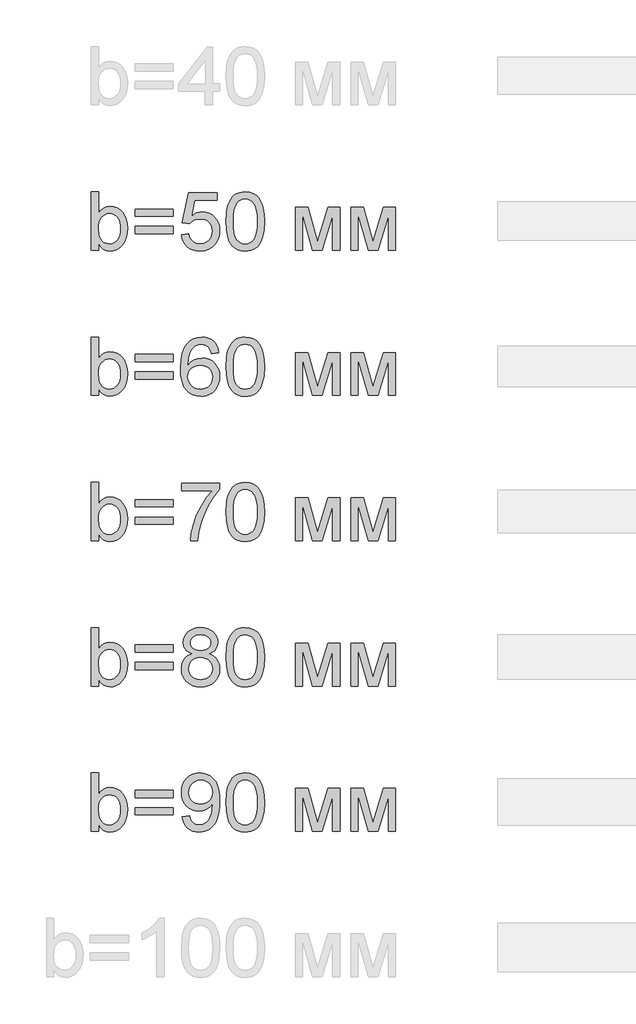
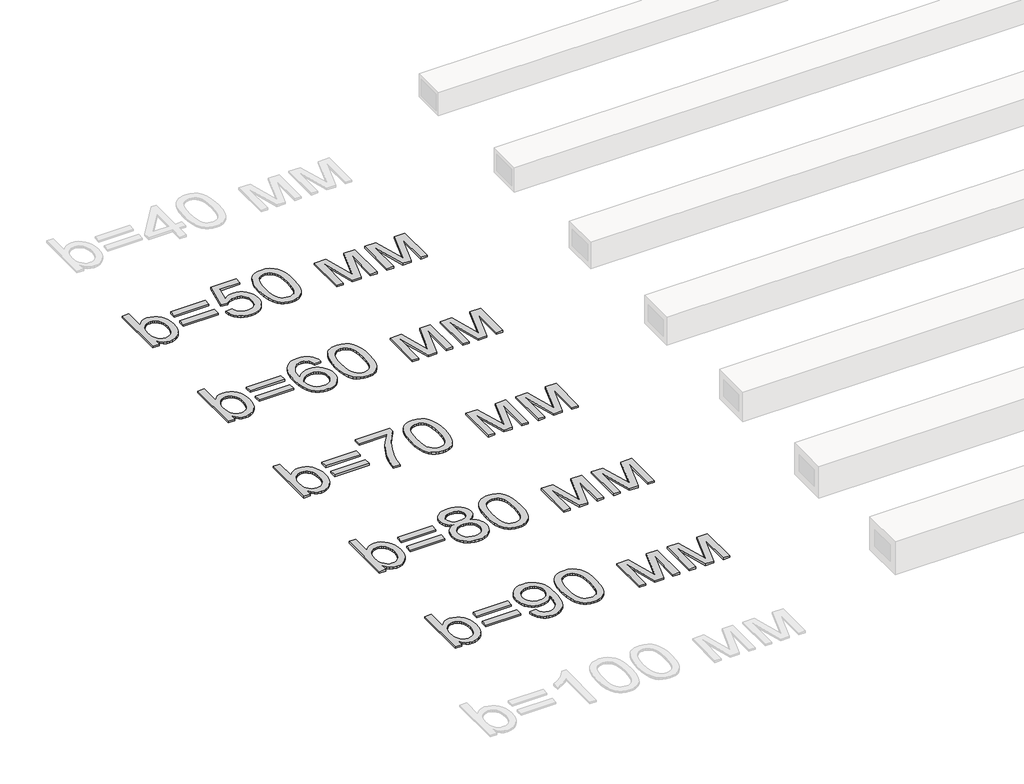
# One storey, part 79 of 86: 5 proxies.
"""IFC4 building model written with IfcOpenShell, lengths in millimetres."""

from ifc_helpers import new_model, si_unit, origin, origin_with_axes, place, context, project, spatial, polyline, outline, extrude, element, save

model = new_model("IFC4")

# Units and contexts
model_context = context("Model", 3, world=origin())
ifc_project = project(units=[si_unit("LENGTHUNIT", "METRE", prefix="MILLI")], contexts=[model_context])

# Site, building, storey
site = spatial("IfcSite", under=ifc_project)
building = spatial("IfcBuilding", under=site)
storey = spatial("IfcBuildingStorey", under=building, Name="Уровень 1", Elevation=0.0)

# Proxies
placement = place(None, origin())
element("IfcBuildingElementProxy", 1, Name="Текст модели 1", ObjectType="Текст модели 1", at=placement, inside=storey, context=model_context, shape_type="SweptSolid", body=[
    extrude(outline(polyline([(89771.0068445, 83169.2937088), (89695.6646119, 83169.2937088), (89695.6646119, 83772.0315697), (89771.0068445, 83772.0315697), (89771.0068445, 83548.5064694), (89795.7836969, 83580.3742473), (89823.7611226, 83603.1369457), (89854.9391217, 83616.7945648), (89889.3176942, 83621.3471045), (89928.1292447, 83617.2452202), (89964.8070796, 83604.9395675), (89997.2542716, 83585.2026984), (90023.3738932, 83558.8071653), (90043.8465263, 83526.0104854), (90059.3527524, 83487.0701762), (90069.1200193, 83443.6049185), (90072.375775, 83397.233393), (90069.0050562, 83343.7249568), (90058.8928999, 83296.6544555), (90042.039306, 83256.0218892), (90018.4442745, 83221.8272577), (89990.1219594, 83194.7235517), (89959.0865146, 83175.3637617), (89925.33794, 83163.7478877), (89888.8762358, 83159.8759297), (89853.3664262, 83164.8699278), (89821.8849245, 83179.8519221), (89794.4317306, 83204.8219125), (89771.0068445, 83239.7798991), (89771.0068445, 83169.2937088)]), holes=[polyline([(89771.0068445, 83393.7017259), (89776.1571925, 83330.8674811), (89782.5951274, 83307.065516), (89791.6082363, 83288.3403224), (89809.8643803, 83265.0993774), (89831.0819744, 83248.4987024), (89855.2610185, 83238.5382973), (89882.4015127, 83235.2181623), (89904.9342849, 83237.6645776), (89925.8851645, 83245.0038234), (89945.2541516, 83257.2358997), (89963.041246, 83274.3608066), (89977.9128757, 83296.3325588), (89988.5354683, 83323.105171), (89994.9090239, 83354.6786432), (89997.0335424, 83391.0529755), (89994.9963958, 83428.1170865), (89988.8849562, 83459.9940614), (89978.6992234, 83486.6839001), (89964.4391976, 83508.1866028), (89947.2912981, 83524.7320955), (89928.4419444, 83536.5503046), (89907.8911364, 83543.64123), (89885.6388742, 83546.0048719), (89863.106102, 83543.5584566), (89842.1552224, 83536.2192108), (89822.7862354, 83523.9871344), (89804.9991409, 83506.8622276), (89790.1275112, 83485.1112046), (89779.5049186, 83459.00078), (89773.1313631, 83428.5309538), (89771.0068445, 83393.7017259)])]), origin_with_axes(), (0.0, 0.0, 1.0), 20.0),
    extrude(outline(polyline([(90543.2647288, 83517.7515346), (90147.7180076, 83517.7515346), (90147.7180076, 83593.0937672), (90543.2647288, 83593.0937672), (90543.2647288, 83517.7515346)])), origin_with_axes(), (0.0, 0.0, 1.0), 20.0),
    extrude(outline(polyline([(90543.2647288, 83338.8137322), (90147.7180076, 83338.8137322), (90147.7180076, 83414.1559648), (90543.2647288, 83414.1559648), (90543.2647288, 83338.8137322)])), origin_with_axes(), (0.0, 0.0, 1.0), 20.0),
    extrude(outline(polyline([(90628.0247405, 83329.3959531), (90703.3669731, 83338.8137322), (90708.9955676, 83314.5933013), (90717.1993361, 83293.5826409), (90727.9782786, 83275.7817508), (90741.332395, 83261.1906312), (90757.2340943, 83249.8276761), (90775.6557852, 83241.7112795), (90796.5974677, 83236.8414416), (90820.059142, 83235.2181623), (90848.7539376, 83237.4760381), (90874.0642189, 83244.2496653), (90895.9899858, 83255.539044), (90914.5312383, 83271.3441743), (90929.2741093, 83290.8833067), (90939.8047314, 83313.3746922), (90946.1231047, 83338.8183307), (90948.2292291, 83367.2142222), (90946.2564619, 83394.0512138), (90940.3381603, 83417.9083611), (90930.4743243, 83438.7856644), (90916.6649539, 83456.6831234), (90898.8640639, 83471.0397183), (90877.0256689, 83481.2944289), (90851.1497691, 83487.4472553), (90821.2363644, 83489.4981974), (90784.6872881, 83486.2240476), (90755.0911816, 83476.4015984), (90731.4547634, 83461.3552248), (90712.7847522, 83442.409302), (90637.4425196, 83451.8270811), (90703.3669731, 83762.6137906), (90995.3181245, 83762.6137906), (90995.3181245, 83687.271558), (90764.2882315, 83687.271558), (90732.0617687, 83521.2832018), (90758.6504399, 83540.3394891), (90785.8829046, 83553.951123), (90813.7591628, 83562.1181032), (90842.2792145, 83564.84043), (90878.970845, 83561.4651127), (90912.6734343, 83551.3391608), (90943.3869823, 83534.4625743), (90971.1114892, 83510.8353531), (90994.0627272, 83481.9014342), (91010.4564686, 83449.1047543), (91020.2927134, 83412.4453135), (91023.5714617, 83371.9231117), (91020.6192087, 83332.8908321), (91011.7624497, 83296.5808791), (90997.0011846, 83262.993253), (90976.3354135, 83232.1279536), (90945.0286557, 83200.5176931), (90908.4979736, 83177.9389357), (90866.7433672, 83164.3916812), (90819.7648364, 83159.8759297), (90780.884308, 83162.777599), (90745.7653731, 83171.4826067), (90714.4080315, 83185.9909529), (90686.8122833, 83206.3026375), (90663.8518483, 83231.4059852), (90646.4004462, 83260.2893203), (90634.4580769, 83292.952643), (90628.0247405, 83329.3959531)])), origin_with_axes(), (0.0, 0.0, 1.0), 20.0),
    extrude(outline(polyline([(91089.4959153, 83465.8065969), (91095.0325393, 83562.2836501), (91101.9533193, 83603.1967265), (91111.6424114, 83639.2261694), (91124.0584287, 83670.6662845), (91139.1599846, 83697.8113772), (91156.9470791, 83720.6614476), (91177.4197121, 83739.2164957), (91200.6468616, 83753.5730906), (91226.6975054, 83763.8278012), (91255.5716435, 83769.9806276), (91287.2692759, 83772.0315697), (91333.6959837, 83767.1755274), (91375.2666491, 83752.6074004), (91410.0314977, 83728.8974058), (91436.0407547, 83696.6157607), (91455.6856533, 83656.0383766), (91471.3574262, 83607.4411651), (91481.6213339, 83545.7289604), (91485.0426365, 83465.8065969), (91479.5611947, 83369.8813667), (91472.7093926, 83329.106246), (91463.1168696, 83293.1227884), (91450.7974212, 83261.6688778), (91435.7648432, 83234.4823983), (91418.0191355, 83211.56335), (91397.560298, 83192.9117329), (91374.3055574, 83178.458569), (91348.1721402, 83168.1348805), (91319.1600463, 83161.9406674), (91287.2692759, 83159.8759297), (91245.7721868, 83163.4627792), (91208.9839873, 83174.2233275), (91176.9046773, 83192.1575748), (91149.5342569, 83217.265521), (91123.2674824, 83262.6529621), (91104.5055007, 83319.2056218), (91093.2483116, 83386.9235001), (91089.4959153, 83465.8065969)]), holes=[polyline([(91164.8381479, 83465.9537497), (91167.0454398, 83400.456959), (91173.6673158, 83347.440565), (91184.7037756, 83306.9045676), (91200.1548194, 83278.848967), (91218.8432248, 83259.7604899), (91239.5917693, 83246.1258635), (91262.400453, 83237.9450876), (91287.2692759, 83235.2181623), (91312.1380987, 83237.9542847), (91334.9467824, 83246.1626517), (91355.695327, 83259.8432634), (91374.3837323, 83278.9961198), (91389.8347761, 83307.0977057), (91400.871236, 83347.624506), (91407.4931119, 83400.5765206), (91409.7004039, 83465.9537497), (91407.5666883, 83529.7168965), (91401.1655416, 83581.79979), (91390.4969637, 83622.2024301), (91375.5609547, 83650.9248169), (91357.185249, 83670.9467945), (91336.1975812, 83685.248207), (91312.5979512, 83693.8290546), (91286.3863591, 83696.6893371), (91261.6462949, 83694.1693454), (91239.2238873, 83686.6093704), (91219.1191363, 83674.0094121), (91201.3320418, 83656.3694704), (91185.3659632, 83625.0995008), (91173.9616213, 83582.9402242), (91167.1190162, 83529.8916405), (91164.8381479, 83465.9537497)])]), origin_with_axes(), (0.0, 0.0, 1.0), 20.0),
    extrude(outline(polyline([(91805.2471251, 83611.9293254), (91934.8887402, 83611.9293254), (92034.8054901, 83257.5853876), (92142.5213382, 83611.9293254), (92266.7182998, 83611.9293254), (92266.7182998, 83169.2937088), (92191.3760672, 83169.2937088), (92191.3760672, 83525.6977857), (92083.0716078, 83169.2937088), (91984.1849275, 83169.2937088), (91880.5893577, 83542.7675103), (91880.5893577, 83169.2937088), (91805.2471251, 83169.2937088), (91805.2471251, 83611.9293254)])), origin_with_axes(), (0.0, 0.0, 1.0), 20.0),
    extrude(outline(polyline([(92379.7316487, 83611.9293254), (92509.3732638, 83611.9293254), (92609.2900137, 83257.5853876), (92717.0058619, 83611.9293254), (92841.2028235, 83611.9293254), (92841.2028235, 83169.2937088), (92765.8605909, 83169.2937088), (92765.8605909, 83525.6977857), (92657.5561315, 83169.2937088), (92558.6694512, 83169.2937088), (92455.0738813, 83542.7675103), (92455.0738813, 83169.2937088), (92379.7316487, 83169.2937088), (92379.7316487, 83611.9293254)])), origin_with_axes(), (0.0, 0.0, 1.0), 20.0),
])
element("IfcBuildingElementProxy", 2, Name="Текст модели 1", ObjectType="Текст модели 1", at=placement, inside=storey, context=model_context, shape_type="SweptSolid", body=[
    extrude(outline(polyline([(89771.0068445, 81669.2937088), (89695.6646119, 81669.2937088), (89695.6646119, 82272.0315697), (89771.0068445, 82272.0315697), (89771.0068445, 82048.5064694), (89795.7836969, 82080.3742473), (89823.7611226, 82103.1369457), (89854.9391217, 82116.7945648), (89889.3176942, 82121.3471045), (89928.1292447, 82117.2452202), (89964.8070796, 82104.9395675), (89997.2542716, 82085.2026984), (90023.3738932, 82058.8071653), (90043.8465263, 82026.0104854), (90059.3527524, 81987.0701762), (90069.1200193, 81943.6049185), (90072.375775, 81897.233393), (90069.0050562, 81843.7249568), (90058.8928999, 81796.6544555), (90042.039306, 81756.0218892), (90018.4442745, 81721.8272577), (89990.1219594, 81694.7235517), (89959.0865146, 81675.3637617), (89925.33794, 81663.7478877), (89888.8762358, 81659.8759297), (89853.3664262, 81664.8699278), (89821.8849245, 81679.8519221), (89794.4317306, 81704.8219125), (89771.0068445, 81739.7798991), (89771.0068445, 81669.2937088)]), holes=[polyline([(89771.0068445, 81893.7017259), (89776.1571925, 81830.8674811), (89782.5951274, 81807.065516), (89791.6082363, 81788.3403224), (89809.8643803, 81765.0993774), (89831.0819744, 81748.4987024), (89855.2610185, 81738.5382973), (89882.4015127, 81735.2181623), (89904.9342849, 81737.6645776), (89925.8851645, 81745.0038234), (89945.2541516, 81757.2358997), (89963.041246, 81774.3608066), (89977.9128757, 81796.3325588), (89988.5354683, 81823.105171), (89994.9090239, 81854.6786432), (89997.0335424, 81891.0529755), (89994.9963958, 81928.1170865), (89988.8849562, 81959.9940614), (89978.6992234, 81986.6839001), (89964.4391976, 82008.1866028), (89947.2912981, 82024.7320955), (89928.4419444, 82036.5503046), (89907.8911364, 82043.64123), (89885.6388742, 82046.0048719), (89863.106102, 82043.5584566), (89842.1552224, 82036.2192108), (89822.7862354, 82023.9871344), (89804.9991409, 82006.8622276), (89790.1275112, 81985.1112046), (89779.5049186, 81959.00078), (89773.1313631, 81928.5309538), (89771.0068445, 81893.7017259)])]), origin_with_axes(), (0.0, 0.0, 1.0), 20.0),
    extrude(outline(polyline([(90543.2647288, 82017.7515346), (90147.7180076, 82017.7515346), (90147.7180076, 82093.0937672), (90543.2647288, 82093.0937672), (90543.2647288, 82017.7515346)])), origin_with_axes(), (0.0, 0.0, 1.0), 20.0),
    extrude(outline(polyline([(90543.2647288, 81838.8137322), (90147.7180076, 81838.8137322), (90147.7180076, 81914.1559648), (90543.2647288, 81914.1559648), (90543.2647288, 81838.8137322)])), origin_with_axes(), (0.0, 0.0, 1.0), 20.0),
    extrude(outline(polyline([(91014.1536826, 82111.9293254), (90938.81145, 82102.5115463), (90926.6713442, 82139.8515688), (90910.2638072, 82165.3457911), (90894.0678024, 82179.0585925), (90876.0875699, 82188.8534506), (90856.3231097, 82194.7303655), (90834.7744218, 82196.6893371), (90799.7520559, 82192.1276003), (90766.7898291, 82178.4423901), (90738.4813096, 82149.6188358), (90715.3599262, 82109.9427626), (90706.3238247, 82084.6370799), (90699.7433355, 82053.8223643), (90693.949194, 81975.6658344), (90724.1706999, 82010.9273236), (90760.3886824, 82035.7777524), (90800.5797903, 82050.5114263), (90842.7206729, 82055.4226509), (90878.9202612, 82052.0657277), (90912.3239464, 82041.9949581), (90942.9317284, 82025.2103421), (90970.7436072, 82001.7118796), (90993.8557936, 81972.8975224), (91010.3644981, 81940.1652218), (91020.2697208, 81903.5149781), (91023.5714617, 81862.9467911), (91022.0171603, 81835.4798016), (91017.354256, 81808.9968965), (91009.5827489, 81783.4980757), (90998.7026388, 81758.9833392), (90985.1002021, 81736.3677936), (90969.1617146, 81716.5665452), (90950.8871765, 81699.5795941), (90930.2765877, 81685.4069402), (90907.7714067, 81674.2371231), (90883.8130918, 81666.2586823), (90858.4016429, 81661.4716179), (90831.5370602, 81659.8759297), (90786.6232671, 81664.1065727), (90746.0596787, 81676.7985015), (90709.8462948, 81697.9517162), (90677.9831154, 81727.5662168), (90652.0060481, 81766.8928021), (90633.4509999, 81817.1822709), (90622.3179711, 81878.4346231), (90618.6069614, 81950.6498587), (90622.7272398, 82031.6114888), (90635.0880748, 82100.7089245), (90655.6894665, 82157.9421659), (90669.0803712, 82182.1097138), (90684.531415, 82203.311213), (90715.7921875, 82233.3763691), (90752.0377611, 82254.8514805), (90793.2681357, 82267.7365474), (90839.4833113, 82272.0315697), (90874.1837805, 82269.3736223), (90905.5917059, 82261.39978), (90933.7070873, 82248.110043), (90958.529925, 82229.5044111), (90979.3888341, 82206.2082837), (90995.6124301, 82178.8470603), (91007.2007129, 82147.4207409), (91014.1536826, 82111.9293254)]), holes=[polyline([(90693.949194, 81864.1240134), (90698.3085957, 81830.7387224), (90711.3868006, 81798.8617475), (90731.6938867, 81771.4545389), (90757.739932, 81751.4785465), (90789.1754485, 81739.2832584), (90825.6509483, 81735.2181623), (90851.8395478, 81737.3242868), (90875.3702, 81743.64266), (90896.2429047, 81754.1732821), (90914.4576619, 81768.9161531), (90929.2327226, 81787.2734647), (90939.7863373, 81808.6474086), (90946.1185062, 81833.0379849), (90948.2292291, 81860.4451935), (90946.1460973, 81886.7809458), (90939.8967019, 81910.1644451), (90929.4810429, 81930.5956914), (90914.8991203, 81948.0746847), (90896.6291808, 81962.0771932), (90875.1494708, 81972.0789849), (90850.4599904, 81978.08006), (90822.5607396, 81980.0804183), (90796.7216279, 81978.08006), (90772.9150643, 81972.0789849), (90751.1410487, 81962.0771932), (90731.3995811, 81948.0746847), (90715.0150368, 81930.8256177), (90703.3117908, 81911.0841501), (90696.2898432, 81888.850282), (90693.949194, 81864.1240134)])]), origin_with_axes(), (0.0, 0.0, 1.0), 20.0),
    extrude(outline(polyline([(91089.4959153, 81965.8065969), (91095.0325393, 82062.2836501), (91101.9533193, 82103.1967265), (91111.6424114, 82139.2261694), (91124.0584287, 82170.6662845), (91139.1599846, 82197.8113772), (91156.9470791, 82220.6614476), (91177.4197121, 82239.2164957), (91200.6468616, 82253.5730906), (91226.6975054, 82263.8278012), (91255.5716435, 82269.9806276), (91287.2692759, 82272.0315697), (91333.6959837, 82267.1755274), (91375.2666491, 82252.6074004), (91410.0314977, 82228.8974058), (91436.0407547, 82196.6157607), (91455.6856533, 82156.0383766), (91471.3574262, 82107.4411651), (91481.6213339, 82045.7289604), (91485.0426365, 81965.8065969), (91479.5611947, 81869.8813667), (91472.7093926, 81829.106246), (91463.1168696, 81793.1227884), (91450.7974212, 81761.6688778), (91435.7648432, 81734.4823983), (91418.0191355, 81711.56335), (91397.560298, 81692.9117329), (91374.3055574, 81678.458569), (91348.1721402, 81668.1348805), (91319.1600463, 81661.9406674), (91287.2692759, 81659.8759297), (91245.7721868, 81663.4627792), (91208.9839873, 81674.2233275), (91176.9046773, 81692.1575748), (91149.5342569, 81717.265521), (91123.2674824, 81762.6529621), (91104.5055007, 81819.2056218), (91093.2483116, 81886.9235001), (91089.4959153, 81965.8065969)]), holes=[polyline([(91164.8381479, 81965.9537497), (91167.0454398, 81900.456959), (91173.6673158, 81847.440565), (91184.7037756, 81806.9045676), (91200.1548194, 81778.848967), (91218.8432248, 81759.7604899), (91239.5917693, 81746.1258635), (91262.400453, 81737.9450876), (91287.2692759, 81735.2181623), (91312.1380987, 81737.9542847), (91334.9467824, 81746.1626517), (91355.695327, 81759.8432634), (91374.3837323, 81778.9961198), (91389.8347761, 81807.0977057), (91400.871236, 81847.624506), (91407.4931119, 81900.5765206), (91409.7004039, 81965.9537497), (91407.5666883, 82029.7168965), (91401.1655416, 82081.79979), (91390.4969637, 82122.2024301), (91375.5609547, 82150.9248169), (91357.185249, 82170.9467945), (91336.1975812, 82185.248207), (91312.5979512, 82193.8290546), (91286.3863591, 82196.6893371), (91261.6462949, 82194.1693454), (91239.2238873, 82186.6093704), (91219.1191363, 82174.0094121), (91201.3320418, 82156.3694704), (91185.3659632, 82125.0995008), (91173.9616213, 82082.9402242), (91167.1190162, 82029.8916405), (91164.8381479, 81965.9537497)])]), origin_with_axes(), (0.0, 0.0, 1.0), 20.0),
    extrude(outline(polyline([(91805.2471251, 82111.9293254), (91934.8887402, 82111.9293254), (92034.8054901, 81757.5853876), (92142.5213382, 82111.9293254), (92266.7182998, 82111.9293254), (92266.7182998, 81669.2937088), (92191.3760672, 81669.2937088), (92191.3760672, 82025.6977857), (92083.0716078, 81669.2937088), (91984.1849275, 81669.2937088), (91880.5893577, 82042.7675103), (91880.5893577, 81669.2937088), (91805.2471251, 81669.2937088), (91805.2471251, 82111.9293254)])), origin_with_axes(), (0.0, 0.0, 1.0), 20.0),
    extrude(outline(polyline([(92379.7316487, 82111.9293254), (92509.3732638, 82111.9293254), (92609.2900137, 81757.5853876), (92717.0058619, 82111.9293254), (92841.2028235, 82111.9293254), (92841.2028235, 81669.2937088), (92765.8605909, 81669.2937088), (92765.8605909, 82025.6977857), (92657.5561315, 81669.2937088), (92558.6694512, 81669.2937088), (92455.0738813, 82042.7675103), (92455.0738813, 81669.2937088), (92379.7316487, 81669.2937088), (92379.7316487, 82111.9293254)])), origin_with_axes(), (0.0, 0.0, 1.0), 20.0),
])
element("IfcBuildingElementProxy", 3, Name="Текст модели 1", ObjectType="Текст модели 1", at=placement, inside=storey, context=model_context, shape_type="SweptSolid", body=[
    extrude(outline(polyline([(89771.0068445, 80169.2937088), (89695.6646119, 80169.2937088), (89695.6646119, 80772.0315697), (89771.0068445, 80772.0315697), (89771.0068445, 80548.5064694), (89795.7836969, 80580.3742473), (89823.7611226, 80603.1369457), (89854.9391217, 80616.7945648), (89889.3176942, 80621.3471045), (89928.1292447, 80617.2452202), (89964.8070796, 80604.9395675), (89997.2542716, 80585.2026984), (90023.3738932, 80558.8071653), (90043.8465263, 80526.0104854), (90059.3527524, 80487.0701762), (90069.1200193, 80443.6049185), (90072.375775, 80397.233393), (90069.0050562, 80343.7249568), (90058.8928999, 80296.6544555), (90042.039306, 80256.0218892), (90018.4442745, 80221.8272577), (89990.1219594, 80194.7235517), (89959.0865146, 80175.3637617), (89925.33794, 80163.7478877), (89888.8762358, 80159.8759297), (89853.3664262, 80164.8699278), (89821.8849245, 80179.8519221), (89794.4317306, 80204.8219125), (89771.0068445, 80239.7798991), (89771.0068445, 80169.2937088)]), holes=[polyline([(89771.0068445, 80393.7017259), (89776.1571925, 80330.8674811), (89782.5951274, 80307.065516), (89791.6082363, 80288.3403224), (89809.8643803, 80265.0993774), (89831.0819744, 80248.4987024), (89855.2610185, 80238.5382973), (89882.4015127, 80235.2181623), (89904.9342849, 80237.6645776), (89925.8851645, 80245.0038234), (89945.2541516, 80257.2358997), (89963.041246, 80274.3608066), (89977.9128757, 80296.3325588), (89988.5354683, 80323.105171), (89994.9090239, 80354.6786432), (89997.0335424, 80391.0529755), (89994.9963958, 80428.1170865), (89988.8849562, 80459.9940614), (89978.6992234, 80486.6839001), (89964.4391976, 80508.1866028), (89947.2912981, 80524.7320955), (89928.4419444, 80536.5503046), (89907.8911364, 80543.64123), (89885.6388742, 80546.0048719), (89863.106102, 80543.5584566), (89842.1552224, 80536.2192108), (89822.7862354, 80523.9871344), (89804.9991409, 80506.8622276), (89790.1275112, 80485.1112046), (89779.5049186, 80459.00078), (89773.1313631, 80428.5309538), (89771.0068445, 80393.7017259)])]), origin_with_axes(), (0.0, 0.0, 1.0), 20.0),
    extrude(outline(polyline([(90543.2647288, 80517.7515346), (90147.7180076, 80517.7515346), (90147.7180076, 80593.0937672), (90543.2647288, 80593.0937672), (90543.2647288, 80517.7515346)])), origin_with_axes(), (0.0, 0.0, 1.0), 20.0),
    extrude(outline(polyline([(90543.2647288, 80338.8137322), (90147.7180076, 80338.8137322), (90147.7180076, 80414.1559648), (90543.2647288, 80414.1559648), (90543.2647288, 80338.8137322)])), origin_with_axes(), (0.0, 0.0, 1.0), 20.0),
    extrude(outline(polyline([(90628.0247405, 80687.271558), (90628.0247405, 80762.6137906), (91023.5714617, 80762.6137906), (91023.5714617, 80701.6925322), (90967.193546, 80630.3418193), (90911.3674532, 80539.6037251), (90862.1264481, 80437.7555948), (90842.2378278, 80385.7692703), (90825.5037955, 80333.0747731), (90807.5511542, 80254.7526963), (90797.5447639, 80169.2937088), (90722.2025313, 80169.2937088), (90730.3511175, 80246.953598), (90752.1481257, 80339.2551906), (90768.0176352, 80388.6203558), (90787.0049447, 80437.0934072), (90809.1100541, 80484.6743447), (90834.3329634, 80531.3631685), (90889.5888391, 80616.5830326), (90948.2292291, 80687.271558), (90628.0247405, 80687.271558)])), origin_with_axes(), (0.0, 0.0, 1.0), 20.0),
    extrude(outline(polyline([(91089.4959153, 80465.8065969), (91095.0325393, 80562.2836501), (91101.9533193, 80603.1967265), (91111.6424114, 80639.2261694), (91124.0584287, 80670.6662845), (91139.1599846, 80697.8113772), (91156.9470791, 80720.6614476), (91177.4197121, 80739.2164957), (91200.6468616, 80753.5730906), (91226.6975054, 80763.8278012), (91255.5716435, 80769.9806276), (91287.2692759, 80772.0315697), (91333.6959837, 80767.1755274), (91375.2666491, 80752.6074004), (91410.0314977, 80728.8974058), (91436.0407547, 80696.6157607), (91455.6856533, 80656.0383766), (91471.3574262, 80607.4411651), (91481.6213339, 80545.7289604), (91485.0426365, 80465.8065969), (91479.5611947, 80369.8813667), (91472.7093926, 80329.106246), (91463.1168696, 80293.1227884), (91450.7974212, 80261.6688778), (91435.7648432, 80234.4823983), (91418.0191355, 80211.56335), (91397.560298, 80192.9117329), (91374.3055574, 80178.458569), (91348.1721402, 80168.1348805), (91319.1600463, 80161.9406674), (91287.2692759, 80159.8759297), (91245.7721868, 80163.4627792), (91208.9839873, 80174.2233275), (91176.9046773, 80192.1575748), (91149.5342569, 80217.265521), (91123.2674824, 80262.6529621), (91104.5055007, 80319.2056218), (91093.2483116, 80386.9235001), (91089.4959153, 80465.8065969)]), holes=[polyline([(91164.8381479, 80465.9537497), (91167.0454398, 80400.456959), (91173.6673158, 80347.440565), (91184.7037756, 80306.9045676), (91200.1548194, 80278.848967), (91218.8432248, 80259.7604899), (91239.5917693, 80246.1258635), (91262.400453, 80237.9450876), (91287.2692759, 80235.2181623), (91312.1380987, 80237.9542847), (91334.9467824, 80246.1626517), (91355.695327, 80259.8432634), (91374.3837323, 80278.9961198), (91389.8347761, 80307.0977057), (91400.871236, 80347.624506), (91407.4931119, 80400.5765206), (91409.7004039, 80465.9537497), (91407.5666883, 80529.7168965), (91401.1655416, 80581.79979), (91390.4969637, 80622.2024301), (91375.5609547, 80650.9248169), (91357.185249, 80670.9467945), (91336.1975812, 80685.248207), (91312.5979512, 80693.8290546), (91286.3863591, 80696.6893371), (91261.6462949, 80694.1693454), (91239.2238873, 80686.6093704), (91219.1191363, 80674.0094121), (91201.3320418, 80656.3694704), (91185.3659632, 80625.0995008), (91173.9616213, 80582.9402242), (91167.1190162, 80529.8916405), (91164.8381479, 80465.9537497)])]), origin_with_axes(), (0.0, 0.0, 1.0), 20.0),
    extrude(outline(polyline([(91805.2471251, 80611.9293254), (91934.8887402, 80611.9293254), (92034.8054901, 80257.5853876), (92142.5213382, 80611.9293254), (92266.7182998, 80611.9293254), (92266.7182998, 80169.2937088), (92191.3760672, 80169.2937088), (92191.3760672, 80525.6977857), (92083.0716078, 80169.2937088), (91984.1849275, 80169.2937088), (91880.5893577, 80542.7675103), (91880.5893577, 80169.2937088), (91805.2471251, 80169.2937088), (91805.2471251, 80611.9293254)])), origin_with_axes(), (0.0, 0.0, 1.0), 20.0),
    extrude(outline(polyline([(92379.7316487, 80611.9293254), (92509.3732638, 80611.9293254), (92609.2900137, 80257.5853876), (92717.0058619, 80611.9293254), (92841.2028235, 80611.9293254), (92841.2028235, 80169.2937088), (92765.8605909, 80169.2937088), (92765.8605909, 80525.6977857), (92657.5561315, 80169.2937088), (92558.6694512, 80169.2937088), (92455.0738813, 80542.7675103), (92455.0738813, 80169.2937088), (92379.7316487, 80169.2937088), (92379.7316487, 80611.9293254)])), origin_with_axes(), (0.0, 0.0, 1.0), 20.0),
])
element("IfcBuildingElementProxy", 4, Name="Текст модели 1", ObjectType="Текст модели 1", at=placement, inside=storey, context=model_context, shape_type="SweptSolid", body=[
    extrude(outline(polyline([(89771.0068445, 78669.2937088), (89695.6646119, 78669.2937088), (89695.6646119, 79272.0315697), (89771.0068445, 79272.0315697), (89771.0068445, 79048.5064694), (89795.7836969, 79080.3742473), (89823.7611226, 79103.1369457), (89854.9391217, 79116.7945648), (89889.3176942, 79121.3471045), (89928.1292447, 79117.2452202), (89964.8070796, 79104.9395675), (89997.2542716, 79085.2026984), (90023.3738932, 79058.8071653), (90043.8465263, 79026.0104854), (90059.3527524, 78987.0701762), (90069.1200193, 78943.6049185), (90072.375775, 78897.233393), (90069.0050562, 78843.7249568), (90058.8928999, 78796.6544555), (90042.039306, 78756.0218892), (90018.4442745, 78721.8272577), (89990.1219594, 78694.7235517), (89959.0865146, 78675.3637617), (89925.33794, 78663.7478877), (89888.8762358, 78659.8759297), (89853.3664262, 78664.8699278), (89821.8849245, 78679.8519221), (89794.4317306, 78704.8219125), (89771.0068445, 78739.7798991), (89771.0068445, 78669.2937088)]), holes=[polyline([(89771.0068445, 78893.7017259), (89776.1571925, 78830.8674811), (89782.5951274, 78807.065516), (89791.6082363, 78788.3403224), (89809.8643803, 78765.0993774), (89831.0819744, 78748.4987024), (89855.2610185, 78738.5382973), (89882.4015127, 78735.2181623), (89904.9342849, 78737.6645776), (89925.8851645, 78745.0038234), (89945.2541516, 78757.2358997), (89963.041246, 78774.3608066), (89977.9128757, 78796.3325588), (89988.5354683, 78823.105171), (89994.9090239, 78854.6786432), (89997.0335424, 78891.0529755), (89994.9963958, 78928.1170865), (89988.8849562, 78959.9940614), (89978.6992234, 78986.6839001), (89964.4391976, 79008.1866028), (89947.2912981, 79024.7320955), (89928.4419444, 79036.5503046), (89907.8911364, 79043.64123), (89885.6388742, 79046.0048719), (89863.106102, 79043.5584566), (89842.1552224, 79036.2192108), (89822.7862354, 79023.9871344), (89804.9991409, 79006.8622276), (89790.1275112, 78985.1112046), (89779.5049186, 78959.00078), (89773.1313631, 78928.5309538), (89771.0068445, 78893.7017259)])]), origin_with_axes(), (0.0, 0.0, 1.0), 20.0),
    extrude(outline(polyline([(90543.2647288, 79017.7515346), (90147.7180076, 79017.7515346), (90147.7180076, 79093.0937672), (90543.2647288, 79093.0937672), (90543.2647288, 79017.7515346)])), origin_with_axes(), (0.0, 0.0, 1.0), 20.0),
    extrude(outline(polyline([(90543.2647288, 78838.8137322), (90147.7180076, 78838.8137322), (90147.7180076, 78914.1559648), (90543.2647288, 78914.1559648), (90543.2647288, 78838.8137322)])), origin_with_axes(), (0.0, 0.0, 1.0), 20.0),
    extrude(outline(polyline([(90737.8007279, 79001.2704212), (90697.4624671, 79021.136049), (90681.8044897, 79033.7176132), (90669.1539476, 79048.065011), (90652.4337109, 79081.5054844), (90646.8602987, 79120.9056461), (90649.8953251, 79151.6329897), (90659.0004045, 79179.8035535), (90674.1755368, 79205.4173374), (90695.420722, 79228.4743415), (90721.7150876, 79247.5306288), (90752.0377611, 79261.1422626), (90786.3887424, 79269.3092429), (90824.7680315, 79272.0315697), (90863.3312617, 79269.2448636), (90897.9397604, 79260.8847452), (90928.5935276, 79246.9512147), (90955.2925634, 79227.4442719), (90976.9240247, 79203.9366124), (90992.3750685, 79178.0009317), (91001.6456948, 79149.6372299), (91004.7359036, 79118.8455069), (90999.2360677, 79080.7145381), (90982.7365603, 79047.8442818), (90970.3159444, 79033.593453), (90955.0534401, 79021.0808667), (90916.0027663, 79001.2704212), (90940.7658231, 78990.7352006), (90962.3742918, 78977.3764857), (90980.8281724, 78961.1942764), (90996.1274649, 78942.1885728), (91008.1342135, 78920.7824392), (91016.7104625, 78897.3989399), (91021.8562119, 78872.0380749), (91023.5714617, 78844.6998441), (91020.1685533, 78807.1206983), (91009.9598279, 78772.6685494), (90992.9452856, 78741.3433976), (90969.1249264, 78713.1452426), (90939.7495491, 78689.8399182), (90906.0699525, 78673.1932579), (90868.0861365, 78663.2052618), (90825.7981011, 78659.8759297), (90783.5100658, 78663.2190574), (90745.5262498, 78673.2484402), (90711.8466531, 78689.9640784), (90682.4712758, 78713.3659718), (90658.6509166, 78741.7618633), (90641.6363743, 78773.4594957), (90631.427649, 78808.458869), (90628.0247405, 78846.7599833), (90629.8089682, 78875.3444143), (90635.1616512, 78901.5008242), (90644.0827896, 78925.2292128), (90656.5723833, 78946.5295804), (90672.3545209, 78965.0156506), (90691.1532909, 78980.3011475), (90712.9686932, 78992.3860711), (90737.8007279, 79001.2704212)]), holes=[polyline([(90722.2025313, 79118.6983541), (90723.8717958, 79101.4262944), (90728.8795895, 79085.8097037), (90737.2259122, 79071.848582), (90748.9107641, 79059.5429293), (90763.7869923, 79049.4997508), (90781.707444, 79042.3260519), (90802.6721192, 79038.0218326), (90826.6810179, 79036.5870928), (90850.0967069, 79038.0126355), (90870.6061281, 79042.2892637), (90888.2092816, 79049.4169774), (90902.9061673, 79059.3957765), (90914.4944501, 79071.4439118), (90922.771795, 79084.7796342), (90927.738202, 79099.4029435), (90929.393671, 79115.3138398), (90927.6830197, 79131.8455369), (90922.5510658, 79147.0068736), (90913.9978095, 79160.7978499), (90902.0232505, 79173.2184658), (90886.995271, 79183.486972), (90869.2817529, 79190.8216193), (90848.8826963, 79195.2224076), (90825.7981011, 79196.6893371), (90802.5341634, 79195.2545973), (90782.0385378, 79190.950378), (90764.3112241, 79183.7766791), (90749.3522225, 79173.7335006), (90737.4742326, 79161.6853652), (90728.9899541, 79148.4967957), (90723.899387, 79134.167792), (90722.2025313, 79118.6983541)]), polyline([(90703.3669731, 78849.4087336), (90706.5123642, 78820.5851793), (90715.9485374, 78792.68133), (90733.3677498, 78768.345936), (90760.4622588, 78750.2277477), (90792.9094507, 78738.9705587), (90826.3867123, 78735.2181623), (90853.628374, 78737.1909295), (90877.6694624, 78743.1092311), (90898.5099775, 78752.9730671), (90916.1499191, 78766.7824375), (90930.1846172, 78783.6360314), (90940.2094016, 78802.632538), (90946.2242722, 78823.7719571), (90948.2292291, 78847.0542889), (90946.1598929, 78870.7091012), (90939.9518842, 78892.2301979), (90929.6052031, 78911.617579), (90915.1198495, 78928.8712446), (90897.0016613, 78943.0347014), (90875.7564761, 78953.1514563), (90851.3842939, 78959.2215092), (90823.8851147, 78961.2448602), (90797.0435247, 78959.2491003), (90773.3197345, 78953.2618209), (90752.7137442, 78943.2830218), (90735.2255539, 78929.312703), (90721.2874248, 78912.344146), (90711.3316183, 78893.3706321), (90705.3581344, 78872.3921613), (90703.3669731, 78849.4087336)])]), origin_with_axes(), (0.0, 0.0, 1.0), 20.0),
    extrude(outline(polyline([(91089.4959153, 78965.8065969), (91095.0325393, 79062.2836501), (91101.9533193, 79103.1967265), (91111.6424114, 79139.2261694), (91124.0584287, 79170.6662845), (91139.1599846, 79197.8113772), (91156.9470791, 79220.6614476), (91177.4197121, 79239.2164957), (91200.6468616, 79253.5730906), (91226.6975054, 79263.8278012), (91255.5716435, 79269.9806276), (91287.2692759, 79272.0315697), (91333.6959837, 79267.1755274), (91375.2666491, 79252.6074004), (91410.0314977, 79228.8974058), (91436.0407547, 79196.6157607), (91455.6856533, 79156.0383766), (91471.3574262, 79107.4411651), (91481.6213339, 79045.7289604), (91485.0426365, 78965.8065969), (91479.5611947, 78869.8813667), (91472.7093926, 78829.106246), (91463.1168696, 78793.1227884), (91450.7974212, 78761.6688778), (91435.7648432, 78734.4823983), (91418.0191355, 78711.56335), (91397.560298, 78692.9117329), (91374.3055574, 78678.458569), (91348.1721402, 78668.1348805), (91319.1600463, 78661.9406674), (91287.2692759, 78659.8759297), (91245.7721868, 78663.4627792), (91208.9839873, 78674.2233275), (91176.9046773, 78692.1575748), (91149.5342569, 78717.265521), (91123.2674824, 78762.6529621), (91104.5055007, 78819.2056218), (91093.2483116, 78886.9235001), (91089.4959153, 78965.8065969)]), holes=[polyline([(91164.8381479, 78965.9537497), (91167.0454398, 78900.456959), (91173.6673158, 78847.440565), (91184.7037756, 78806.9045676), (91200.1548194, 78778.848967), (91218.8432248, 78759.7604899), (91239.5917693, 78746.1258635), (91262.400453, 78737.9450876), (91287.2692759, 78735.2181623), (91312.1380987, 78737.9542847), (91334.9467824, 78746.1626517), (91355.695327, 78759.8432634), (91374.3837323, 78778.9961198), (91389.8347761, 78807.0977057), (91400.871236, 78847.624506), (91407.4931119, 78900.5765206), (91409.7004039, 78965.9537497), (91407.5666883, 79029.7168965), (91401.1655416, 79081.79979), (91390.4969637, 79122.2024301), (91375.5609547, 79150.9248169), (91357.185249, 79170.9467945), (91336.1975812, 79185.248207), (91312.5979512, 79193.8290546), (91286.3863591, 79196.6893371), (91261.6462949, 79194.1693454), (91239.2238873, 79186.6093704), (91219.1191363, 79174.0094121), (91201.3320418, 79156.3694704), (91185.3659632, 79125.0995008), (91173.9616213, 79082.9402242), (91167.1190162, 79029.8916405), (91164.8381479, 78965.9537497)])]), origin_with_axes(), (0.0, 0.0, 1.0), 20.0),
    extrude(outline(polyline([(91805.2471251, 79111.9293254), (91934.8887402, 79111.9293254), (92034.8054901, 78757.5853876), (92142.5213382, 79111.9293254), (92266.7182998, 79111.9293254), (92266.7182998, 78669.2937088), (92191.3760672, 78669.2937088), (92191.3760672, 79025.6977857), (92083.0716078, 78669.2937088), (91984.1849275, 78669.2937088), (91880.5893577, 79042.7675103), (91880.5893577, 78669.2937088), (91805.2471251, 78669.2937088), (91805.2471251, 79111.9293254)])), origin_with_axes(), (0.0, 0.0, 1.0), 20.0),
    extrude(outline(polyline([(92379.7316487, 79111.9293254), (92509.3732638, 79111.9293254), (92609.2900137, 78757.5853876), (92717.0058619, 79111.9293254), (92841.2028235, 79111.9293254), (92841.2028235, 78669.2937088), (92765.8605909, 78669.2937088), (92765.8605909, 79025.6977857), (92657.5561315, 78669.2937088), (92558.6694512, 78669.2937088), (92455.0738813, 79042.7675103), (92455.0738813, 78669.2937088), (92379.7316487, 78669.2937088), (92379.7316487, 79111.9293254)])), origin_with_axes(), (0.0, 0.0, 1.0), 20.0),
])
element("IfcBuildingElementProxy", 5, Name="Текст модели 1", ObjectType="Текст модели 1", at=placement, inside=storey, context=model_context, shape_type="SweptSolid", body=[
    extrude(outline(polyline([(89771.0068445, 77169.2937088), (89695.6646119, 77169.2937088), (89695.6646119, 77772.0315697), (89771.0068445, 77772.0315697), (89771.0068445, 77548.5064694), (89795.7836969, 77580.3742473), (89823.7611226, 77603.1369457), (89854.9391217, 77616.7945648), (89889.3176942, 77621.3471045), (89928.1292447, 77617.2452202), (89964.8070796, 77604.9395675), (89997.2542716, 77585.2026984), (90023.3738932, 77558.8071653), (90043.8465263, 77526.0104854), (90059.3527524, 77487.0701762), (90069.1200193, 77443.6049185), (90072.375775, 77397.233393), (90069.0050562, 77343.7249568), (90058.8928999, 77296.6544555), (90042.039306, 77256.0218892), (90018.4442745, 77221.8272577), (89990.1219594, 77194.7235517), (89959.0865146, 77175.3637617), (89925.33794, 77163.7478877), (89888.8762358, 77159.8759297), (89853.3664262, 77164.8699278), (89821.8849245, 77179.8519221), (89794.4317306, 77204.8219125), (89771.0068445, 77239.7798991), (89771.0068445, 77169.2937088)]), holes=[polyline([(89771.0068445, 77393.7017259), (89776.1571925, 77330.8674811), (89782.5951274, 77307.065516), (89791.6082363, 77288.3403224), (89809.8643803, 77265.0993774), (89831.0819744, 77248.4987024), (89855.2610185, 77238.5382973), (89882.4015127, 77235.2181623), (89904.9342849, 77237.6645776), (89925.8851645, 77245.0038234), (89945.2541516, 77257.2358997), (89963.041246, 77274.3608066), (89977.9128757, 77296.3325588), (89988.5354683, 77323.105171), (89994.9090239, 77354.6786432), (89997.0335424, 77391.0529755), (89994.9963958, 77428.1170865), (89988.8849562, 77459.9940614), (89978.6992234, 77486.6839001), (89964.4391976, 77508.1866028), (89947.2912981, 77524.7320955), (89928.4419444, 77536.5503046), (89907.8911364, 77543.64123), (89885.6388742, 77546.0048719), (89863.106102, 77543.5584566), (89842.1552224, 77536.2192108), (89822.7862354, 77523.9871344), (89804.9991409, 77506.8622276), (89790.1275112, 77485.1112046), (89779.5049186, 77459.00078), (89773.1313631, 77428.5309538), (89771.0068445, 77393.7017259)])]), origin_with_axes(), (0.0, 0.0, 1.0), 20.0),
    extrude(outline(polyline([(90543.2647288, 77517.7515346), (90147.7180076, 77517.7515346), (90147.7180076, 77593.0937672), (90543.2647288, 77593.0937672), (90543.2647288, 77517.7515346)])), origin_with_axes(), (0.0, 0.0, 1.0), 20.0),
    extrude(outline(polyline([(90543.2647288, 77338.8137322), (90147.7180076, 77338.8137322), (90147.7180076, 77414.1559648), (90543.2647288, 77414.1559648), (90543.2647288, 77338.8137322)])), origin_with_axes(), (0.0, 0.0, 1.0), 20.0),
    extrude(outline(polyline([(90637.4425196, 77319.978174), (90712.7847522, 77329.3959531), (90725.660622, 77286.6296712), (90735.1335834, 77270.3646884), (90746.6298957, 77257.5118112), (90760.0208004, 77247.7583398), (90775.1775386, 77240.7915746), (90810.7885157, 77235.2181623), (90842.739067, 77238.8050118), (90871.7833505, 77249.5655601), (90895.9164094, 77266.322585), (90913.1332868, 77287.898864), (90926.1747035, 77316.2625659), (90937.7813804, 77353.3818592), (90945.9483607, 77395.9825942), (90948.6706875, 77440.7906212), (90948.2292291, 77455.505901), (90922.1280015, 77423.6473203), (90887.9701583, 77398.4106154), (90848.2205087, 77381.9662902), (90805.3438622, 77376.4848485), (90769.5535426, 77379.8325746), (90736.6418996, 77389.8757531), (90706.6089332, 77406.6143839), (90679.4546434, 77430.048467), (90656.9540609, 77458.9547948), (90640.8822162, 77492.1101596), (90631.2391094, 77529.5145614), (90628.0247405, 77571.1680003), (90631.3954593, 77614.2101938), (90641.5076156, 77652.8378033), (90658.3612095, 77687.0508288), (90681.956241, 77716.8492704), (90710.628044, 77740.9915264), (90742.7119525, 77758.2359949), (90778.2079665, 77768.582676), (90817.116086, 77772.0315697), (90845.8430713, 77770.063401), (90873.3100608, 77764.158895), (90899.5170544, 77754.3180516), (90924.4640522, 77740.5408709), (90947.3187212, 77723.1216584), (90967.2487283, 77702.3547198), (90984.2540735, 77678.240055), (90998.3347568, 77650.7776641), (91009.3758152, 77618.3856544), (91017.2622855, 77579.4821334), (91021.9941677, 77534.0671011), (91023.5714617, 77482.1405575), (91021.9987662, 77427.6066502), (91017.2806796, 77378.9312638), (91009.417202, 77336.114398), (90998.4083332, 77299.1560531), (90984.2954602, 77267.154918), (90967.1199696, 77239.209682), (90946.8818613, 77215.3203449), (90923.5811354, 77195.4869069), (90897.6868415, 77179.9071044), (90869.668029, 77168.778674), (90839.5246981, 77162.1016158), (90807.2568486, 77159.8759297), (90773.420902, 77162.5016875), (90742.8407112, 77170.3789607), (90715.516276, 77183.5077494), (90691.4475965, 77201.8880536), (90671.2416779, 77225.0232325), (90655.5055255, 77252.4166456), (90644.2391394, 77284.0682928), (90637.4425196, 77319.978174)]), holes=[polyline([(90948.2292291, 77572.9338339), (90946.1966811, 77599.9363724), (90940.099037, 77623.9958548), (90929.9362969, 77645.1122814), (90915.7084607, 77663.2856519), (90898.1145043, 77677.8997642), (90877.8534034, 77688.3384158), (90854.9251581, 77694.6016068), (90829.3297683, 77696.6893371), (90802.915841, 77694.4406584), (90779.0035113, 77687.6946223), (90757.5927792, 77676.4512288), (90738.6836447, 77660.710478), (90723.2326009, 77641.3920747), (90712.196141, 77619.415724), (90705.5742651, 77594.7814259), (90703.3669731, 77567.4891804), (90705.4547034, 77543.0112321), (90711.7178944, 77520.9337139), (90722.156546, 77501.2566257), (90736.7706583, 77483.9799675), (90754.9532259, 77469.9130797), (90776.0972436, 77459.8653027), (90800.2027113, 77453.8366365), (90827.2696291, 77451.8270811), (90852.5109325, 77453.8366365), (90875.4069882, 77459.8653027), (90895.9577961, 77469.9130797), (90914.1633564, 77483.9799675), (90929.0671757, 77501.5969165), (90939.7127609, 77522.2948773), (90946.1001121, 77546.0738497), (90948.2292291, 77572.9338339)])]), origin_with_axes(), (0.0, 0.0, 1.0), 20.0),
    extrude(outline(polyline([(91089.4959153, 77465.8065969), (91095.0325393, 77562.2836501), (91101.9533193, 77603.1967265), (91111.6424114, 77639.2261694), (91124.0584287, 77670.6662845), (91139.1599846, 77697.8113772), (91156.9470791, 77720.6614476), (91177.4197121, 77739.2164957), (91200.6468616, 77753.5730906), (91226.6975054, 77763.8278012), (91255.5716435, 77769.9806276), (91287.2692759, 77772.0315697), (91333.6959837, 77767.1755274), (91375.2666491, 77752.6074004), (91410.0314977, 77728.8974058), (91436.0407547, 77696.6157607), (91455.6856533, 77656.0383766), (91471.3574262, 77607.4411651), (91481.6213339, 77545.7289604), (91485.0426365, 77465.8065969), (91479.5611947, 77369.8813667), (91472.7093926, 77329.106246), (91463.1168696, 77293.1227884), (91450.7974212, 77261.6688778), (91435.7648432, 77234.4823983), (91418.0191355, 77211.56335), (91397.560298, 77192.9117329), (91374.3055574, 77178.458569), (91348.1721402, 77168.1348805), (91319.1600463, 77161.9406674), (91287.2692759, 77159.8759297), (91245.7721868, 77163.4627792), (91208.9839873, 77174.2233275), (91176.9046773, 77192.1575748), (91149.5342569, 77217.265521), (91123.2674824, 77262.6529621), (91104.5055007, 77319.2056218), (91093.2483116, 77386.9235001), (91089.4959153, 77465.8065969)]), holes=[polyline([(91164.8381479, 77465.9537497), (91167.0454398, 77400.456959), (91173.6673158, 77347.440565), (91184.7037756, 77306.9045676), (91200.1548194, 77278.848967), (91218.8432248, 77259.7604899), (91239.5917693, 77246.1258635), (91262.400453, 77237.9450876), (91287.2692759, 77235.2181623), (91312.1380987, 77237.9542847), (91334.9467824, 77246.1626517), (91355.695327, 77259.8432634), (91374.3837323, 77278.9961198), (91389.8347761, 77307.0977057), (91400.871236, 77347.624506), (91407.4931119, 77400.5765206), (91409.7004039, 77465.9537497), (91407.5666883, 77529.7168965), (91401.1655416, 77581.79979), (91390.4969637, 77622.2024301), (91375.5609547, 77650.9248169), (91357.185249, 77670.9467945), (91336.1975812, 77685.248207), (91312.5979512, 77693.8290546), (91286.3863591, 77696.6893371), (91261.6462949, 77694.1693454), (91239.2238873, 77686.6093704), (91219.1191363, 77674.0094121), (91201.3320418, 77656.3694704), (91185.3659632, 77625.0995008), (91173.9616213, 77582.9402242), (91167.1190162, 77529.8916405), (91164.8381479, 77465.9537497)])]), origin_with_axes(), (0.0, 0.0, 1.0), 20.0),
    extrude(outline(polyline([(91805.2471251, 77611.9293254), (91934.8887402, 77611.9293254), (92034.8054901, 77257.5853876), (92142.5213382, 77611.9293254), (92266.7182998, 77611.9293254), (92266.7182998, 77169.2937088), (92191.3760672, 77169.2937088), (92191.3760672, 77525.6977857), (92083.0716078, 77169.2937088), (91984.1849275, 77169.2937088), (91880.5893577, 77542.7675103), (91880.5893577, 77169.2937088), (91805.2471251, 77169.2937088), (91805.2471251, 77611.9293254)])), origin_with_axes(), (0.0, 0.0, 1.0), 20.0),
    extrude(outline(polyline([(92379.7316487, 77611.9293254), (92509.3732638, 77611.9293254), (92609.2900137, 77257.5853876), (92717.0058619, 77611.9293254), (92841.2028235, 77611.9293254), (92841.2028235, 77169.2937088), (92765.8605909, 77169.2937088), (92765.8605909, 77525.6977857), (92657.5561315, 77169.2937088), (92558.6694512, 77169.2937088), (92455.0738813, 77542.7675103), (92455.0738813, 77169.2937088), (92379.7316487, 77169.2937088), (92379.7316487, 77611.9293254)])), origin_with_axes(), (0.0, 0.0, 1.0), 20.0),
])

save(model, "model.ifc")
